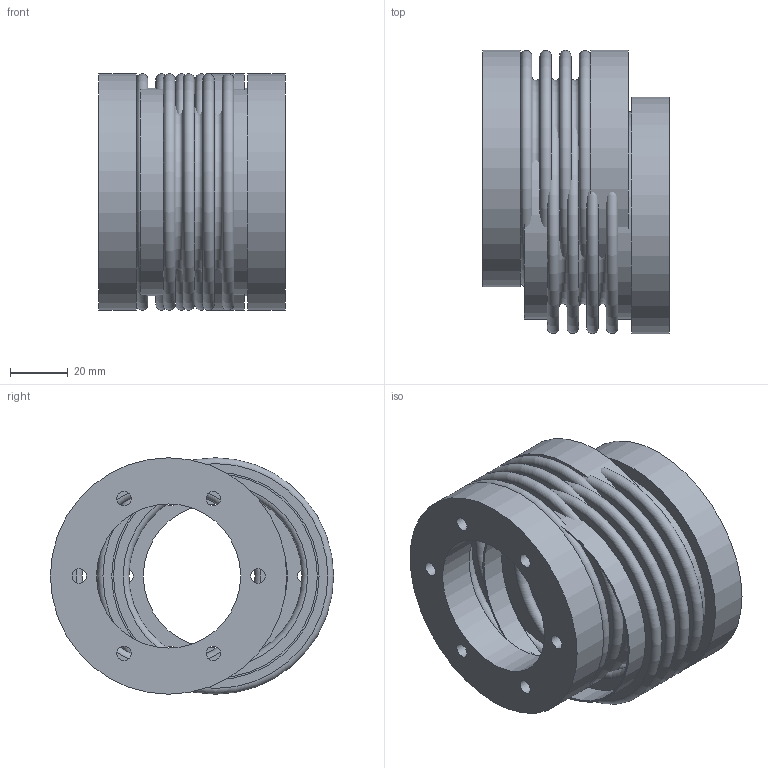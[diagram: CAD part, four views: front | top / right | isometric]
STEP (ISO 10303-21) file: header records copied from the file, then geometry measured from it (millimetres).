
FILE_DESCRIPTION( ( 'Unknown' ), '1' );
FILE_NAME( 'C:/Dokumente und Einstellungen/Sven/Desktop/homepage/cad - homepage/KB7/KB7-80-50.stp', 'Unknown', ( 'Unknown' ), ( 'Unknown' ), 'XStep 1.0', 'Unknown', ' ' );
FILE_SCHEMA( ( 'automotive_design' ) );
Length unit declared in the file: millimetre
Products named in the file (3): Assem1; FN80-150_Standard_2; BK80-150_Standard_1
Bounding box: 64.64 x 98.24 x 82 mm (x, y, z)
Volume: 152569.1 mm3; surface area: 132183.9 mm2
Topology: 5 solids, 5 shells, 102 faces, 180 edges, 120 vertices
Faces by surface type: plane 42, cylinder 32, torus 28
Full cylindrical faces by diameter (mm): 5 x18, 50 x3, 70.7 x4, 71.9 x4, 82 x3
Entity records: 1154 total; most frequent: DIRECTION 204, CARTESIAN_POINT 154, EDGE_LOOP 104, ORIENTED_EDGE 104, AXIS2_PLACEMENT_3D 102, FACE_OUTER_BOUND 72, EDGE_CURVE 52, VERTEX_POINT 52
